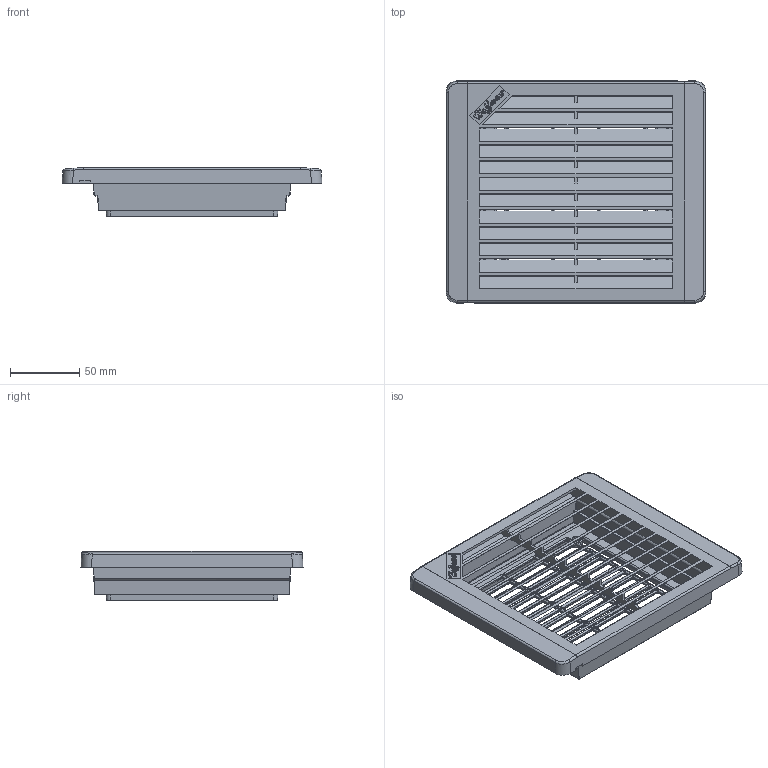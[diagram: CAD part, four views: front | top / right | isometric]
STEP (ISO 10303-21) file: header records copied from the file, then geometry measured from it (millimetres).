
FILE_DESCRIPTION(( 'STEP AP214 file generated by I-DEAS Master Series'),'2;1');
FILE_NAME('D:\a00150\t-ep4.stp','2002-06-05T09:14:39',('A00150'),( 'unspecified'),'I-DEAS Master Series 7m2 : Design', 'I-DEAS Master Series 7m2 : Design','unspecified');
FILE_SCHEMA(('AUTOMOTIVE_DESIGN_CC2 { 1 2 10303 214 -1 1 5 3 }'));
Length unit declared in the file: inch
Products named in the file (3): 4_inch_pkg_bbs; 87555312; 87559979
Assembly tree (2 placements, depth 2):
  4_inch_pkg_bbs
    87555312
    87559979
Bounding box: 187.07 x 159.87 x 35.38 mm (x, y, z)
Volume: 142435.7 mm3; surface area: 158445.8 mm2
Topology: 2 solids, 2 shells, 1864 faces, 4557 edges, 2708 vertices
Faces by surface type: bspline 1864
Entity records: 64795 total; most frequent: CARTESIAN_POINT 39974, ORIENTED_EDGE 8874, EDGE_CURVE 4437, VERTEX_POINT 2508, EDGE_LOOP 1951, FACE_OUTER_BOUND 1864, ADVANCED_FACE 1864, B_SPLINE_CURVE_WITH_KNOTS 1681
